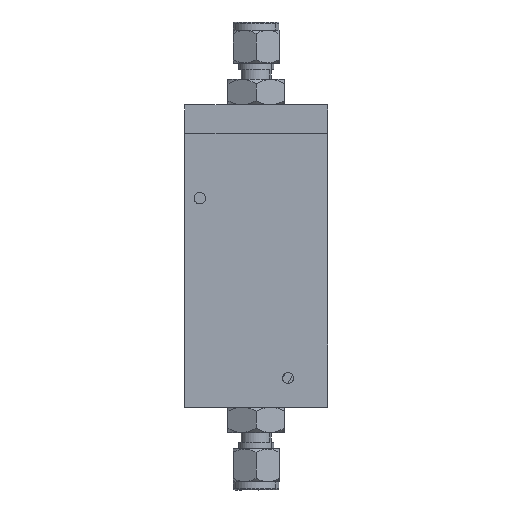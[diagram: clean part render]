
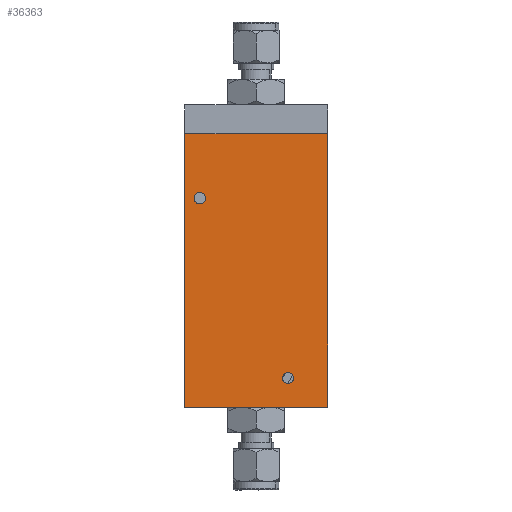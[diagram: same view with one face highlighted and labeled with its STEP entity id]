
A CAD part, front view. The second image highlights one B-rep face of the part: STEP entity #36363.
In plain terms, the highlighted planar face has unit normal (0, -1, 0).
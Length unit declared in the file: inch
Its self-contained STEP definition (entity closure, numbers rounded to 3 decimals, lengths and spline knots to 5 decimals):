
#730 = VERTEX_POINT ( 'NONE', #66101 ) ;
#1558 = LINE ( 'NONE', #25620, #74355 ) ;
#1577 = VERTEX_POINT ( 'NONE', #68897 ) ;
#3932 = VERTEX_POINT ( 'NONE', #18929 ) ;
#4176 = VECTOR ( 'NONE', #10375, 39.37008 ) ;
#4667 = VERTEX_POINT ( 'NONE', #24854 ) ;
#5787 = CIRCLE ( 'NONE', #56560, 0.0693 ) ;
#7605 = ORIENTED_EDGE ( 'NONE', *, *, #61801, .T. ) ;
#10116 = DIRECTION ( 'NONE',  ( 0., 1., 0. ) ) ;
#10313 = EDGE_CURVE ( 'NONE', #4667, #730, #41405, .T. ) ;
#10375 = DIRECTION ( 'NONE',  ( 1., 0., 0. ) ) ;
#12903 = DIRECTION ( 'NONE',  ( 0., 0., 1. ) ) ;
#17553 = AXIS2_PLACEMENT_3D ( 'NONE', #56465, #38617, #62275 ) ;
#17685 = EDGE_CURVE ( 'NONE', #1577, #4667, #34217, .T. ) ;
#18929 = CARTESIAN_POINT ( 'NONE',  ( 0.3875, 0., -3.2597 ) ) ;
#19114 = CARTESIAN_POINT ( 'NONE',  ( 0.3875, 0., -3.329 ) ) ;
#19956 = CIRCLE ( 'NONE', #39747, 0.0693 ) ;
#19979 = ORIENTED_EDGE ( 'NONE', *, *, #10313, .F. ) ;
#22216 = CARTESIAN_POINT ( 'NONE',  ( -0.8695, 0., -2.0165 ) ) ;
#23757 = ORIENTED_EDGE ( 'NONE', *, *, #61214, .F. ) ;
#23948 = AXIS2_PLACEMENT_3D ( 'NONE', #36601, #47883, #71535 ) ;
#24854 = CARTESIAN_POINT ( 'NONE',  ( -0.8695, 0., -0.35 ) ) ;
#25566 = EDGE_LOOP ( 'NONE', ( #64952, #61015 ) ) ;
#25620 = CARTESIAN_POINT ( 'NONE',  ( 0., 0., -3.683 ) ) ;
#26837 = VERTEX_POINT ( 'NONE', #41039 ) ;
#32773 = EDGE_CURVE ( 'NONE', #54558, #34655, #19956, .T. ) ;
#33894 = EDGE_CURVE ( 'NONE', #1577, #26837, #1558, .T. ) ;
#34217 = LINE ( 'NONE', #22216, #40586 ) ;
#34655 = VERTEX_POINT ( 'NONE', #71590 ) ;
#34969 = AXIS2_PLACEMENT_3D ( 'NONE', #63633, #62873, #40739 ) ;
#35569 = CARTESIAN_POINT ( 'NONE',  ( 0., 0., -0.35 ) ) ;
#36363 = ADVANCED_FACE ( 'NONE', ( #57825, #52020, #51254 ), #46195, .T. ) ;
#36601 = CARTESIAN_POINT ( 'NONE',  ( 0.3875, 0., -3.329 ) ) ;
#38617 = DIRECTION ( 'NONE',  ( 0., 1., 0. ) ) ;
#39747 = AXIS2_PLACEMENT_3D ( 'NONE', #51650, #10116, #46205 ) ;
#40010 = ORIENTED_EDGE ( 'NONE', *, *, #17685, .F. ) ;
#40586 = VECTOR ( 'NONE', #50927, 39.37008 ) ;
#40739 = DIRECTION ( 'NONE',  ( 0., 0., -1. ) ) ;
#41039 = CARTESIAN_POINT ( 'NONE',  ( 0.8695, 0., -3.683 ) ) ;
#41405 = LINE ( 'NONE', #35569, #4176 ) ;
#41614 = DIRECTION ( 'NONE',  ( 0., 0., -1. ) ) ;
#42502 = CIRCLE ( 'NONE', #23948, 0.0693 ) ;
#46195 = PLANE ( 'NONE',  #34969 ) ;
#46205 = DIRECTION ( 'NONE',  ( 0., 0., 1. ) ) ;
#46215 = VECTOR ( 'NONE', #41614, 39.37008 ) ;
#46362 = EDGE_LOOP ( 'NONE', ( #60774, #23757, #19979, #40010 ) ) ;
#47883 = DIRECTION ( 'NONE',  ( 0., 1., 0. ) ) ;
#48380 = EDGE_LOOP ( 'NONE', ( #7605, #66847 ) ) ;
#48969 = LINE ( 'NONE', #53621, #46215 ) ;
#49616 = EDGE_CURVE ( 'NONE', #64199, #3932, #5787, .T. ) ;
#50927 = DIRECTION ( 'NONE',  ( 0., 0., 1. ) ) ;
#51144 = CARTESIAN_POINT ( 'NONE',  ( -0.6875, 0., -1.2063 ) ) ;
#51254 = FACE_BOUND ( 'NONE', #48380, .T. ) ;
#51650 = CARTESIAN_POINT ( 'NONE',  ( -0.6875, 0., -1.137 ) ) ;
#52020 = FACE_BOUND ( 'NONE', #25566, .T. ) ;
#53621 = CARTESIAN_POINT ( 'NONE',  ( 0.8695, 0., -2.0165 ) ) ;
#54514 = CIRCLE ( 'NONE', #17553, 0.0693 ) ;
#54558 = VERTEX_POINT ( 'NONE', #51144 ) ;
#55467 = DIRECTION ( 'NONE',  ( 1., 0., 0. ) ) ;
#56465 = CARTESIAN_POINT ( 'NONE',  ( -0.6875, 0., -1.137 ) ) ;
#56560 = AXIS2_PLACEMENT_3D ( 'NONE', #19114, #66051, #12903 ) ;
#57825 = FACE_OUTER_BOUND ( 'NONE', #46362, .T. ) ;
#60774 = ORIENTED_EDGE ( 'NONE', *, *, #33894, .T. ) ;
#61015 = ORIENTED_EDGE ( 'NONE', *, *, #32773, .T. ) ;
#61214 = EDGE_CURVE ( 'NONE', #730, #26837, #48969, .T. ) ;
#61801 = EDGE_CURVE ( 'NONE', #3932, #64199, #42502, .T. ) ;
#62275 = DIRECTION ( 'NONE',  ( 0., 0., 1. ) ) ;
#62873 = DIRECTION ( 'NONE',  ( 0., -1., 0. ) ) ;
#63633 = CARTESIAN_POINT ( 'NONE',  ( 0., 0., -2.0165 ) ) ;
#64199 = VERTEX_POINT ( 'NONE', #73551 ) ;
#64952 = ORIENTED_EDGE ( 'NONE', *, *, #71697, .T. ) ;
#66051 = DIRECTION ( 'NONE',  ( 0., 1., 0. ) ) ;
#66101 = CARTESIAN_POINT ( 'NONE',  ( 0.8695, 0., -0.35 ) ) ;
#66847 = ORIENTED_EDGE ( 'NONE', *, *, #49616, .T. ) ;
#68897 = CARTESIAN_POINT ( 'NONE',  ( -0.8695, 0., -3.683 ) ) ;
#71535 = DIRECTION ( 'NONE',  ( 0., 0., 1. ) ) ;
#71590 = CARTESIAN_POINT ( 'NONE',  ( -0.6875, 0., -1.0677 ) ) ;
#71697 = EDGE_CURVE ( 'NONE', #34655, #54558, #54514, .T. ) ;
#73551 = CARTESIAN_POINT ( 'NONE',  ( 0.3875, 0., -3.3983 ) ) ;
#74355 = VECTOR ( 'NONE', #55467, 39.37008 ) ;
